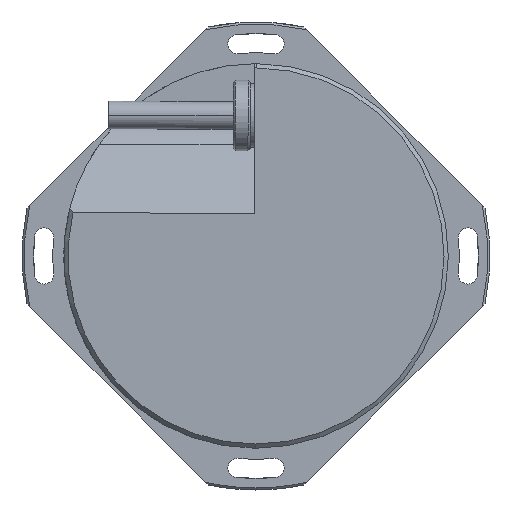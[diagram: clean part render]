
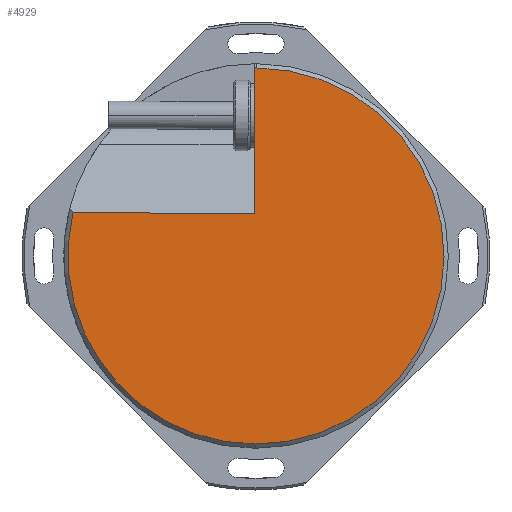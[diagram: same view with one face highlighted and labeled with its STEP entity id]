
A CAD part, left-side view. The second image highlights one B-rep face of the part: STEP entity #4929.
In plain terms, the highlighted planar face has unit normal (-1, 0, 0).
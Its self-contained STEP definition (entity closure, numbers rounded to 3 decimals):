
#93 = CARTESIAN_POINT ( 'NONE',  ( -7.872, 24.713, 28.972 ) ) ;
#124 = CARTESIAN_POINT ( 'NONE',  ( -7.872, 24.713, 28.972 ) ) ;
#147 = VERTEX_POINT ( 'NONE', #4778 ) ;
#150 = CARTESIAN_POINT ( 'NONE',  ( -7.872, 67.724, 39.154 ) ) ;
#161 = EDGE_LOOP ( 'NONE', ( #6766, #7339, #6851, #6867, #188 ) ) ;
#188 = ORIENTED_EDGE ( 'NONE', *, *, #3154, .T. ) ;
#733 = DIRECTION ( 'NONE',  ( 0., -0.004, 1. ) ) ;
#759 = DIRECTION ( 'NONE',  ( 0., -0.004, 1. ) ) ;
#807 = CARTESIAN_POINT ( 'NONE',  ( -7.872, 24.713, 28.972 ) ) ;
#935 = FACE_OUTER_BOUND ( 'NONE', #161, .T. ) ;
#1325 = DIRECTION ( 'NONE',  ( -1., 0., 0. ) ) ;
#1419 = DIRECTION ( 'NONE',  ( 0., -0.004, 1. ) ) ;
#2665 = CARTESIAN_POINT ( 'NONE',  ( -7.872, 25.171, 38.974 ) ) ;
#2695 = DIRECTION ( 'NONE',  ( 0., 0.004, -1. ) ) ;
#3066 = EDGE_CURVE ( 'NONE', #3235, #147, #6687, .T. ) ;
#3089 = EDGE_CURVE ( 'NONE', #4044, #3235, #6639, .T. ) ;
#3134 = EDGE_CURVE ( 'NONE', #3750, #4044, #6534, .T. ) ;
#3142 = EDGE_CURVE ( 'NONE', #3252, #3750, #6506, .T. ) ;
#3154 = EDGE_CURVE ( 'NONE', #147, #3252, #6517, .T. ) ;
#3235 = VERTEX_POINT ( 'NONE', #8019 ) ;
#3252 = VERTEX_POINT ( 'NONE', #5306 ) ;
#3750 = VERTEX_POINT ( 'NONE', #150 ) ;
#4044 = VERTEX_POINT ( 'NONE', #6496 ) ;
#4365 = DIRECTION ( 'NONE',  ( -1., 0., 0. ) ) ;
#4387 = DIRECTION ( 'NONE',  ( -1., 0., 0. ) ) ;
#4778 = CARTESIAN_POINT ( 'NONE',  ( -7.872, 25.025, 73.17 ) ) ;
#4929 = ADVANCED_FACE ( 'NONE', ( #935 ), #5677, .T. ) ;
#4966 = CARTESIAN_POINT ( 'NONE',  ( -7.872, 24.713, 28.972 ) ) ;
#4973 = AXIS2_PLACEMENT_3D ( 'NONE', #124, #4387, #759 ) ;
#5089 = DIRECTION ( 'NONE',  ( -1., 0., 0. ) ) ;
#5128 = AXIS2_PLACEMENT_3D ( 'NONE', #807, #5089, #1419 ) ;
#5306 = CARTESIAN_POINT ( 'NONE',  ( -7.872, 25.171, 38.974 ) ) ;
#5677 = PLANE ( 'NONE',  #6885 ) ;
#5746 = DIRECTION ( 'NONE',  ( 0., -0.004, 1. ) ) ;
#6056 = AXIS2_PLACEMENT_3D ( 'NONE', #93, #4365, #733 ) ;
#6462 = VECTOR ( 'NONE', #2695, 1000. ) ;
#6495 = VECTOR ( 'NONE', #6583, 1000. ) ;
#6496 = CARTESIAN_POINT ( 'NONE',  ( -7.872, 24.901, -15.228 ) ) ;
#6506 = LINE ( 'NONE', #2665, #6495 ) ;
#6517 = LINE ( 'NONE', #7241, #6462 ) ;
#6534 = CIRCLE ( 'NONE', #5128, 44.2 ) ;
#6583 = DIRECTION ( 'NONE',  ( 0., 1., 0.004 ) ) ;
#6639 = CIRCLE ( 'NONE', #4973, 44.2 ) ;
#6687 = CIRCLE ( 'NONE', #6056, 44.2 ) ;
#6766 = ORIENTED_EDGE ( 'NONE', *, *, #3142, .T. ) ;
#6851 = ORIENTED_EDGE ( 'NONE', *, *, #3089, .T. ) ;
#6867 = ORIENTED_EDGE ( 'NONE', *, *, #3066, .T. ) ;
#6885 = AXIS2_PLACEMENT_3D ( 'NONE', #4966, #1325, #5746 ) ;
#7241 = CARTESIAN_POINT ( 'NONE',  ( -7.872, 25.213, 28.974 ) ) ;
#7339 = ORIENTED_EDGE ( 'NONE', *, *, #3134, .T. ) ;
#8019 = CARTESIAN_POINT ( 'NONE',  ( -7.872, 24.525, 73.171 ) ) ;
